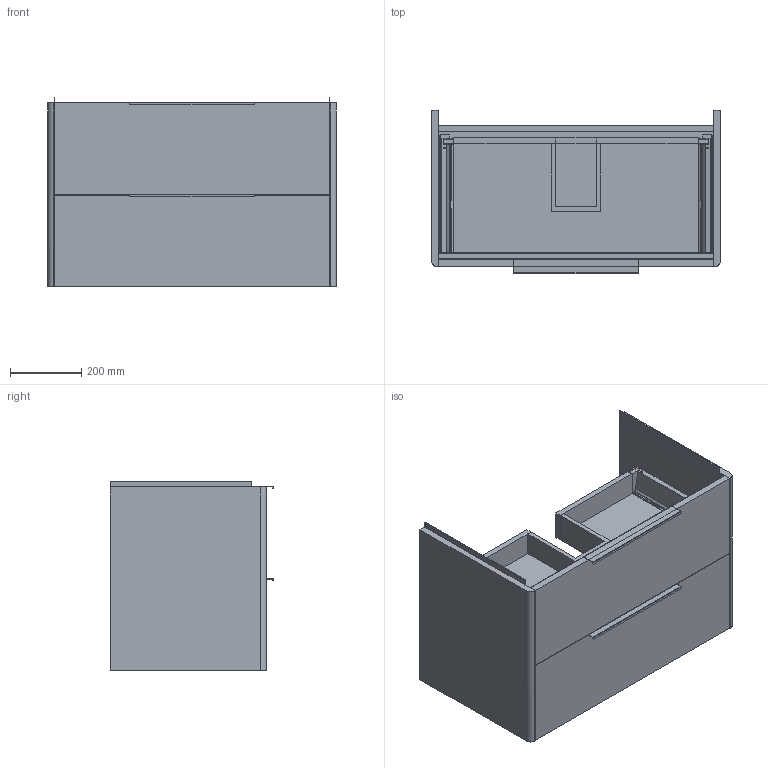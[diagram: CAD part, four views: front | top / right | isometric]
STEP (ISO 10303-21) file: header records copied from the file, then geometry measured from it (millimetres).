
FILE_DESCRIPTION(/* description */ (''),/* implementation_level */ '2;1');
FILE_NAME(/* name */ '3D05C4~1',/* time_stamp */ '2018-05-07T13:21:33+02:00',/* author */ (''),/* organization */ (''),/* preprocessor_version */ 'ST-DEVELOPER v15',/* originating_system */ '',/* authorisation */ '');
FILE_SCHEMA (('AUTOMOTIVE_DESIGN'));
Length unit declared in the file: millimetre
Products named in the file (23): Document; 350-84_MIR4; 350-84_1_MIR4; 350-84_2_MIR4; 350-84_3_MIR4; 350-84; 350-84_1; 350-84_2; 350-84_3; maniglia inferiore; Maniglia superiore; Frontale cassetto inferiore; Retro_cassetto inferiore; Fascia rialzo; Retro cassetto superiore; Fondo cassetto inferiore; Fondo cassetto superiore; Fondo mobile; Fianco dx; Fianco sx; Catena inferiore; Frontale cassetto superiore; Catena_superiore
Assembly tree (24 placements, depth 3):
  Document
    350-84_MIR4  x2
      350-84_1_MIR4
      350-84_2_MIR4
      350-84_3_MIR4
    350-84  x2
      350-84_1
      350-84_2
      350-84_3
    maniglia inferiore
    Maniglia superiore
    Frontale cassetto inferiore
    Retro_cassetto inferiore
    Fascia rialzo
    Retro cassetto superiore
    Fondo cassetto inferiore
    Fondo cassetto superiore
    Fondo mobile
    Fianco dx
    Fianco sx
    Catena inferiore
    Frontale cassetto superiore
    Catena_superiore
Bounding box: 809 x 458.1 x 531 mm (x, y, z)
Volume: 34086090.1 mm3; surface area: 4908709.9 mm2
Topology: 28 solids, 28 shells, 1055 faces, 3161 edges, 2198 vertices
Faces by surface type: plane 776, bspline 279
Entity records: 19884 total; most frequent: CARTESIAN_POINT 7915, ORIENTED_EDGE 3490, EDGE_CURVE 1745, B_SPLINE_CURVE_WITH_KNOTS 1287, VERTEX_POINT 1214, EDGE_LOOP 695, ADVANCED_FACE 597, FACE_OUTER_BOUND 597
